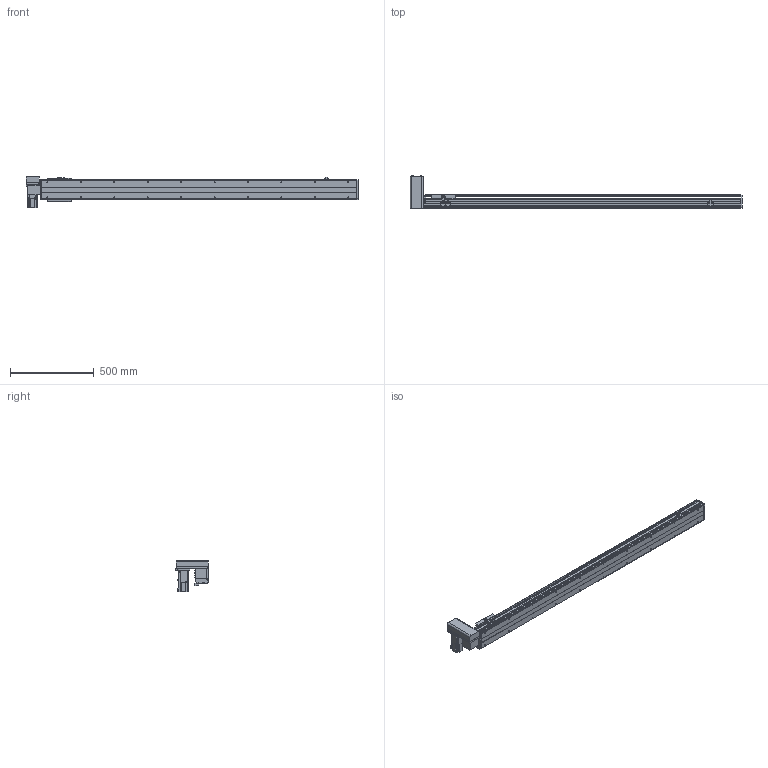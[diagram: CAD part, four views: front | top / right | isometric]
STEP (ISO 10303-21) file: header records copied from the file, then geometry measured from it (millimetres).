
FILE_DESCRIPTION( ( 'STEP AP214' ), '1' );
FILE_NAME( 'x:/temp/worker_27/temp/exporttempdir_6708_237_71d4t/format_0/PBS120-P40-S1600-RU-T40-C1-N(0).stp', '2022-06-06T00:50:14', ( 'License CC BY-ND 4.0' ), ( 'CADENAS' ), ' ', 'PARTsolutions', ' ' );
FILE_SCHEMA( ( 'AUTOMOTIVE_DESIGN { 1 0 10303 214 1 1 1 1 }' ) );
Length unit declared in the file: millimetre
Products named in the file (7): PBS120-P40-S1600-RU-T40-C1-N(0); _PBS120-S1600()_body; _PBS120T-RU_motors; _T40-p1; _PBS120_sliser; _PBS120_plant; _PBS120_sensor
Assembly tree (8 placements, depth 2):
  PBS120-P40-S1600-RU-T40-C1-N(0)
    _PBS120-S1600()_body
    _PBS120T-RU_motors
    _T40-p1
    _PBS120_sliser
    _PBS120_plant
    _PBS120_sensor  x3
Bounding box: 1986 x 198 x 189.7 mm (x, y, z)
Volume: 7914372.7 mm3; surface area: 1594553.3 mm2
Topology: 8 solids, 8 shells, 840 faces, 2176 edges, 1399 vertices
Faces by surface type: plane 553, cylinder 233, cone 52, torus 2
Full cylindrical faces by diameter (mm): 2.459 x6, 3.242 x4, 4 x2, 4.134 x4, 4.5 x10, 4.917 x24, 5.5 x11, 6 x2, 6.6 x1, 7 x2, 8.5 x4, 9 x4, 12 x1, 14 x1, 30 x2, 40 x1, 50 x2
Entity records: 27660 total; most frequent: DIRECTION 3788, CARTESIAN_POINT 3713, ORIENTED_EDGE 3526, EDGE_CURVE 1763, AXIS2_PLACEMENT_3D 1280, LINE 1228, VECTOR 1228, VERTEX_POINT 1205
